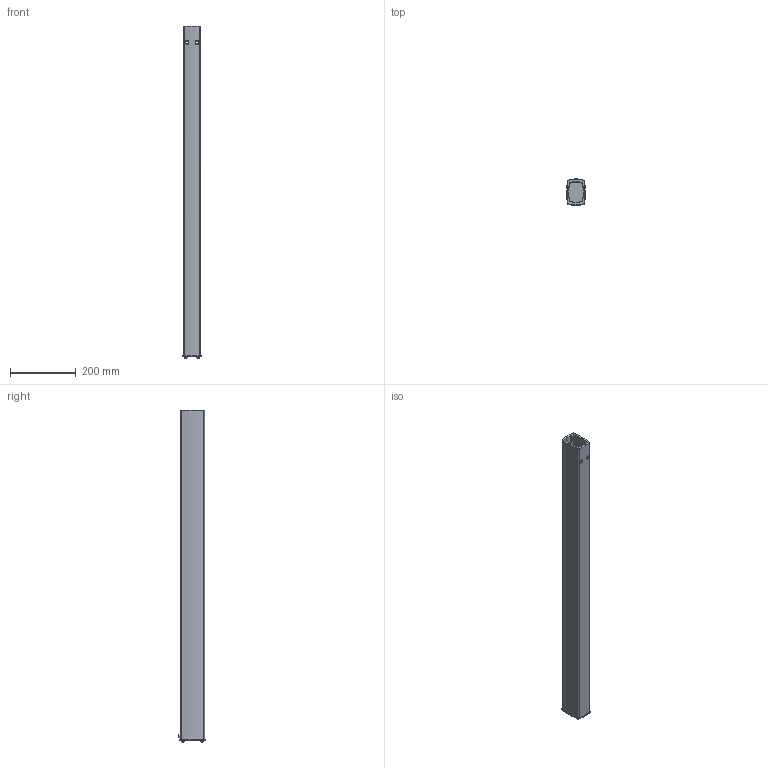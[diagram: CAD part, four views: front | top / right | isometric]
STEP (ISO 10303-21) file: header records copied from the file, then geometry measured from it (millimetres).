
FILE_DESCRIPTION((''),'2;1');
FILE_NAME('9806000216_ASM','2023-03-27T14:30:43',('Stephanie.Hoppe'),(''),'CREO PARAMETRIC BY PTC INC, 2022124','CREO PARAMETRIC BY PTC INC, 2022124','');
FILE_SCHEMA(('AUTOMOTIVE_DESIGN { 1 0 10303 214 1 1 1 1 }'));
Length unit declared in the file: millimetre
Products named in the file (11): 9206083000_AF1; 9524700182_ASM; 9511000105; 9511000105_DICHTUNG; 9511000105_ASM; 9231828000; 9261281000; 9806000148_ASM; 9231530000; 9261332000; 9806000216_ASM
Assembly tree (16 placements, depth 4):
  9806000216_ASM
    9524700182_ASM
      9206083000_AF1
    9806000148_ASM
      9511000105_ASM
        9511000105
        9511000105_DICHTUNG
      9231828000  x4
      9261281000  x4
    9231530000
    9261332000
Bounding box: 56.53 x 80.37 x 1007.7 mm (x, y, z)
Volume: 1274264.4 mm3; surface area: 468930.7 mm2
Topology: 13 solids, 26 shells, 428 faces, 1118 edges, 740 vertices
Faces by surface type: cylinder 209, torus 78, cone 72, plane 61, sphere 8
Entity records: 17372 total; most frequent: CARTESIAN_POINT 2259, DIRECTION 2053, ORIENTED_EDGE 1244, AXIS2_PLACEMENT_3D 851, PRESENTATION_STYLE_ASSIGNMENT 830, STYLED_ITEM 830, CURVE_STYLE 762, PROPERTY_DEFINITION 689
